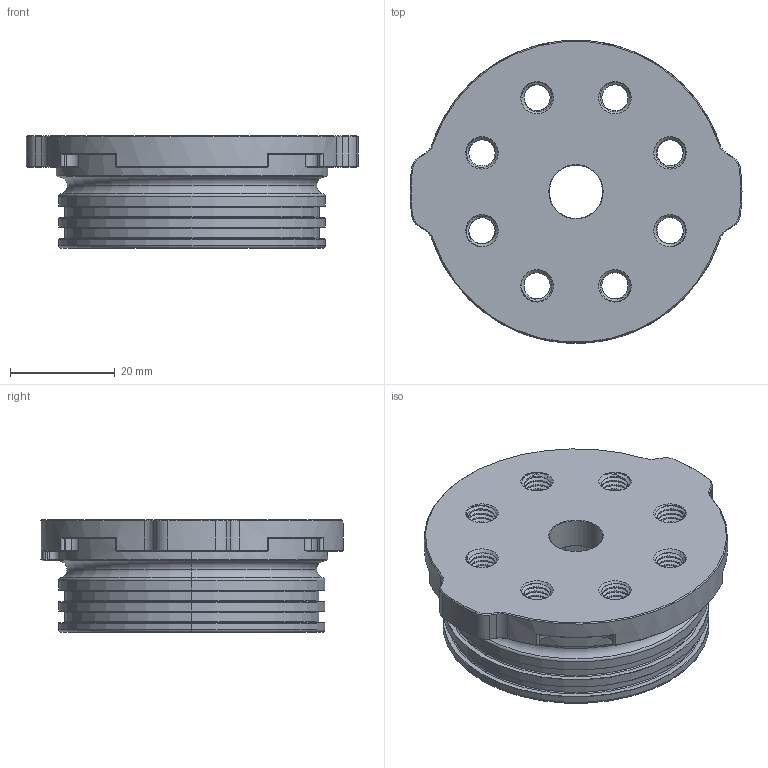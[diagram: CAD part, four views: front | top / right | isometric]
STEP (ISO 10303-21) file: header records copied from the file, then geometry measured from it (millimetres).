
FILE_DESCRIPTION (( 'STEP AP214' ), '1' );
FILE_NAME ('BR-102922-009_Rev_4.step', '2024-12-10T19:34:57', ( '' ), ( '' ), 'SwSTEP 2.0', 'SolidWorks 2024', '' );
FILE_SCHEMA (( 'AUTOMOTIVE_DESIGN' ));
Length unit declared in the file: millimetre
Products named in the file (1): BR-102922-009_Rev_4
Bounding box: 63.5 x 57.94 x 21.5 mm (x, y, z)
Volume: 20999.3 mm3; surface area: 13835.5 mm2
Topology: 1 solids, 1 shells, 720 faces, 1911 edges, 1179 vertices
Faces by surface type: cylinder 342, cone 187, bspline 81, plane 69, torus 41
Full cylindrical faces by diameter (mm): 5 x4
Entity records: 52106 total; most frequent: CARTESIAN_POINT 36304, ORIENTED_EDGE 3774, DIRECTION 2867, EDGE_CURVE 1887, VERTEX_POINT 1179, AXIS2_PLACEMENT_3D 1119, EDGE_LOOP 748, FACE_OUTER_BOUND 720
